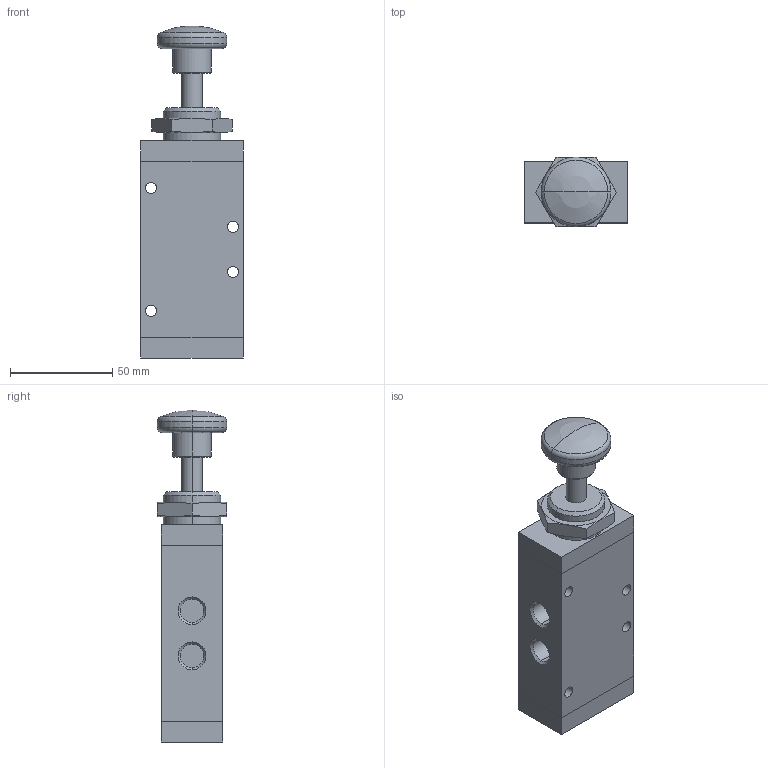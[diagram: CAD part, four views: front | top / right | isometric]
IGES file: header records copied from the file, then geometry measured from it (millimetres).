
Global section: file name: No Iges File Name specified; native system: AutoDesk Inventor R11.0; preprocessor: AutoDesk Inventor Iges Exporter R11.0; author: No Author specified; organization: No Organization specified; date: 20061219.113645; units: millimetre
Bounding box: 50 x 34 x 162 mm (x, y, z)
Volume: 175651.9 mm3; surface area: 30841 mm2
Topology: 2 solids, 2 shells, 88 faces, 198 edges, 123 vertices
Faces by surface type: plane 27, bspline 25, revolution 14, cylinder 8, cone 8, torus 4, sphere 2
